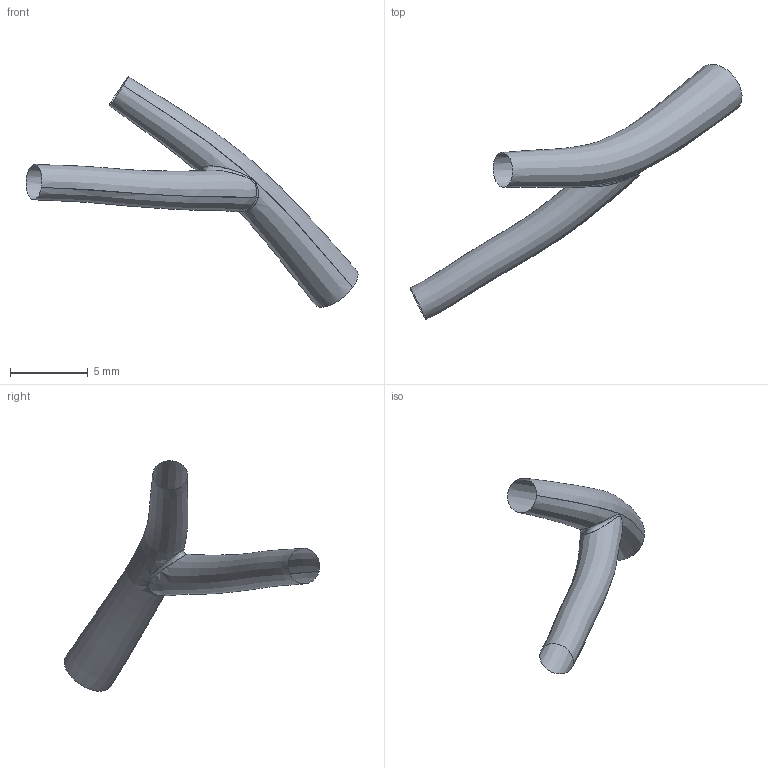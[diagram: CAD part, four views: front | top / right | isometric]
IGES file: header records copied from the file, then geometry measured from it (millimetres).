
Global section: file name: C:\Documents and Settings\Administrator\Desktop\FDA Bifurcation win\RawData_for_IGES\HRCA_Data\20000719.092552\IGES\20000719.092552.PDA.BIFUR.ED.igs; native system: Rhinoceros ( May 19 2006 ); preprocessor: Trout Lake IGES 012 May 19 2006; date: 100728.202146; units: centimetre
Bounding box: 21.37 x 16.44 x 14.84 mm (x, y, z)
Surface area: 292 mm2 (no closed solid volume)
Topology: 0 solids, 0 shells, 3 faces, 54 edges, 49 vertices
Faces by surface type: bspline 3
